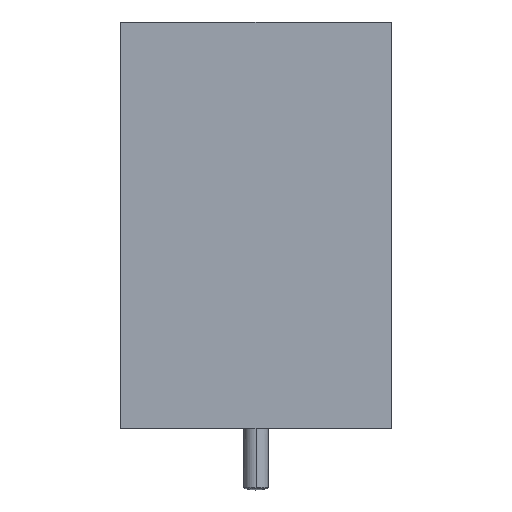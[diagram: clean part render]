
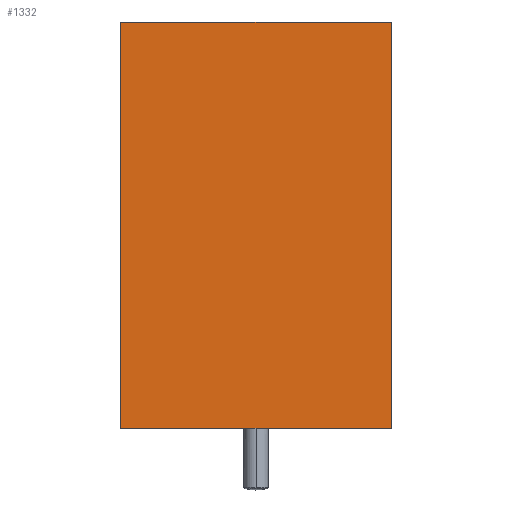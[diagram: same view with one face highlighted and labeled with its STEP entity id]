
A CAD part, front view. The second image highlights one B-rep face of the part: STEP entity #1332.
In plain terms, the highlighted planar face has unit normal (0, -1, 0).
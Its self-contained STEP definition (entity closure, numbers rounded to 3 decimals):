
#84 = EDGE_CURVE ( 'NONE', #2087, #1137, #847, .T. ) ;
#91 = CARTESIAN_POINT ( 'NONE',  ( 55., 38.812, 110. ) ) ;
#135 = ORIENTED_EDGE ( 'NONE', *, *, #956, .F. ) ;
#254 = DIRECTION ( 'NONE',  ( -1., 0., 0. ) ) ;
#437 = FACE_OUTER_BOUND ( 'NONE', #2145, .T. ) ;
#446 = VECTOR ( 'NONE', #601, 1000. ) ;
#490 = DIRECTION ( 'NONE',  ( 0., 0., 1. ) ) ;
#601 = DIRECTION ( 'NONE',  ( 1., 0., 0. ) ) ;
#643 = AXIS2_PLACEMENT_3D ( 'NONE', #1559, #1980, #2181 ) ;
#772 = EDGE_CURVE ( 'NONE', #1271, #1644, #2110, .T. ) ;
#847 = LINE ( 'NONE', #1212, #998 ) ;
#956 = EDGE_CURVE ( 'NONE', #1137, #1271, #1736, .T. ) ;
#998 = VECTOR ( 'NONE', #490, 1000. ) ;
#1048 = PLANE ( 'NONE',  #643 ) ;
#1051 = CARTESIAN_POINT ( 'NONE',  ( -55., 38.812, -55. ) ) ;
#1074 = CARTESIAN_POINT ( 'NONE',  ( -55., 38.812, 110. ) ) ;
#1082 = VECTOR ( 'NONE', #1727, 1000. ) ;
#1137 = VERTEX_POINT ( 'NONE', #1074 ) ;
#1167 = ORIENTED_EDGE ( 'NONE', *, *, #84, .F. ) ;
#1201 = ORIENTED_EDGE ( 'NONE', *, *, #2214, .F. ) ;
#1212 = CARTESIAN_POINT ( 'NONE',  ( -55., 38.812, 110. ) ) ;
#1271 = VERTEX_POINT ( 'NONE', #91 ) ;
#1332 = ADVANCED_FACE ( 'NONE', ( #437 ), #1048, .T. ) ;
#1512 = CARTESIAN_POINT ( 'NONE',  ( 55., 38.812, -55. ) ) ;
#1559 = CARTESIAN_POINT ( 'NONE',  ( 0., 38.812, 0. ) ) ;
#1592 = LINE ( 'NONE', #1051, #1787 ) ;
#1644 = VERTEX_POINT ( 'NONE', #2248 ) ;
#1725 = CARTESIAN_POINT ( 'NONE',  ( 55., 38.812, 110. ) ) ;
#1727 = DIRECTION ( 'NONE',  ( 0., 0., -1. ) ) ;
#1736 = LINE ( 'NONE', #1725, #446 ) ;
#1787 = VECTOR ( 'NONE', #254, 1000. ) ;
#1839 = ORIENTED_EDGE ( 'NONE', *, *, #772, .F. ) ;
#1980 = DIRECTION ( 'NONE',  ( 0., -1., 0. ) ) ;
#2087 = VERTEX_POINT ( 'NONE', #2108 ) ;
#2108 = CARTESIAN_POINT ( 'NONE',  ( -55., 38.812, -55. ) ) ;
#2110 = LINE ( 'NONE', #1512, #1082 ) ;
#2145 = EDGE_LOOP ( 'NONE', ( #1201, #1839, #135, #1167 ) ) ;
#2181 = DIRECTION ( 'NONE',  ( 0., 0., -1. ) ) ;
#2214 = EDGE_CURVE ( 'NONE', #1644, #2087, #1592, .T. ) ;
#2248 = CARTESIAN_POINT ( 'NONE',  ( 55., 38.812, -55. ) ) ;
